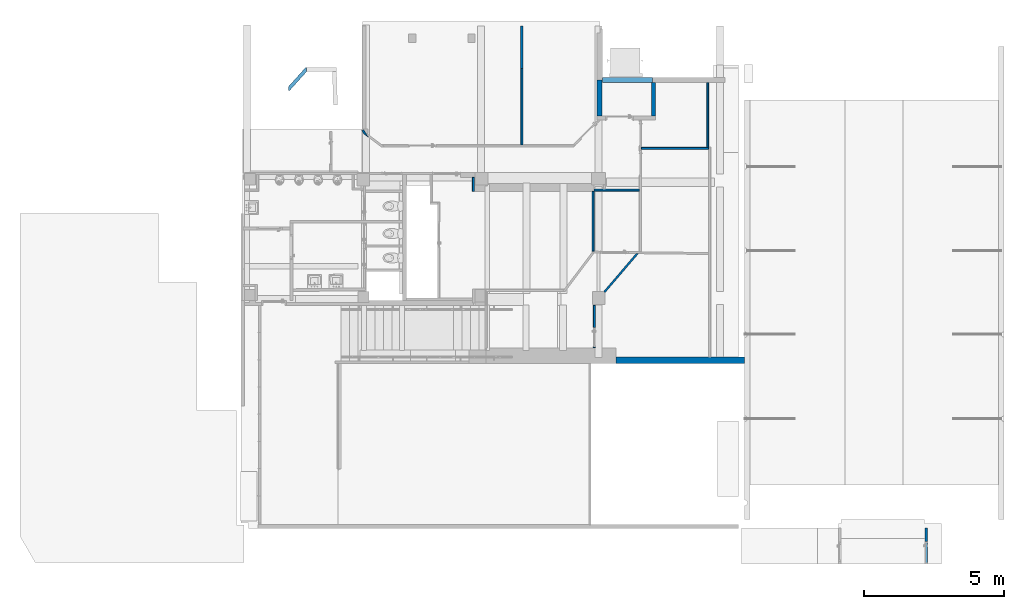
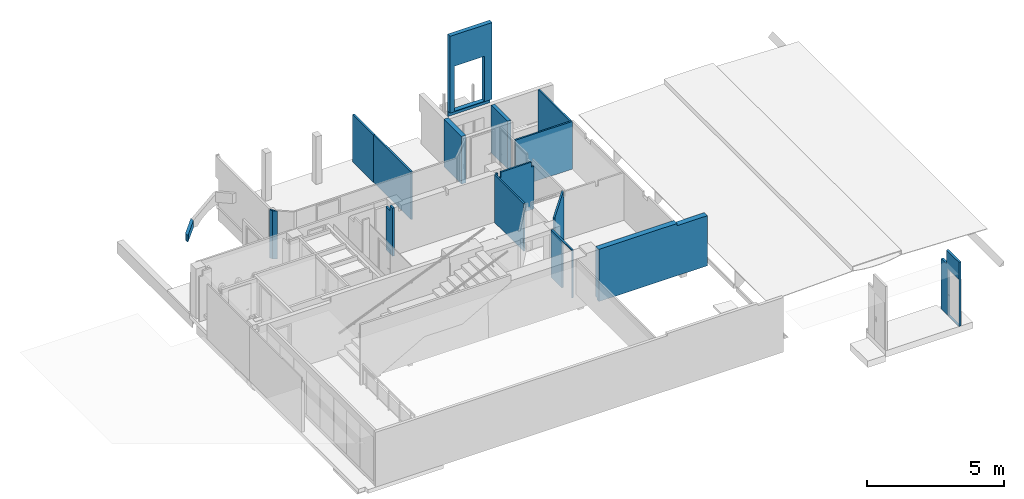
# One storey, part 9 of 32: 15 walls, 1 stair, 3 openings.
"""IFC4 building model written with IfcOpenShell, lengths in metres."""

from ifc_helpers import new_model, entity, si_unit, converted_unit, derived_unit, direction, frame, origin, place, context, subcontext, project, spatial, indexed_curve, outline, extrude, polygons, material, layer, layer_set, type_object, element, save


model = new_model("IFC4")

# Units and contexts
model_context = context("Model", 3, precision=1e-05, world=origin(), true_north=direction((6.12303176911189e-17, 1.0)))
body_context = subcontext(model_context, "Body", "Model", "MODEL_VIEW")
ifc_project = project(units=[si_unit("LENGTHUNIT", "METRE"), si_unit("AREAUNIT", "SQUARE_METRE"), si_unit("VOLUMEUNIT", "CUBIC_METRE"), converted_unit("PLANEANGLEUNIT", "DEGREE", entity("IfcRatioMeasure", 0.0174532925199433), si_unit("PLANEANGLEUNIT", "RADIAN"), dimensions=[0, 0, 0, 0, 0, 0, 0]), si_unit("MASSUNIT", "GRAM", prefix="KILO"), derived_unit("MASSDENSITYUNIT", [(si_unit("MASSUNIT", "GRAM", prefix="KILO"), 1), (si_unit("LENGTHUNIT", "METRE"), -3)]), derived_unit("MOMENTOFINERTIAUNIT", [(si_unit("LENGTHUNIT", "METRE"), 4)]), si_unit("TIMEUNIT", "SECOND"), si_unit("FREQUENCYUNIT", "HERTZ"), si_unit("THERMODYNAMICTEMPERATUREUNIT", "DEGREE_CELSIUS"), derived_unit("THERMALTRANSMITTANCEUNIT", [(si_unit("MASSUNIT", "GRAM", prefix="KILO"), 1), (si_unit("THERMODYNAMICTEMPERATUREUNIT", "KELVIN"), -1), (si_unit("TIMEUNIT", "SECOND"), -3)]), derived_unit("VOLUMETRICFLOWRATEUNIT", [(si_unit("LENGTHUNIT", "METRE"), 3), (si_unit("TIMEUNIT", "SECOND"), -1)]), si_unit("ELECTRICCURRENTUNIT", "AMPERE"), si_unit("ELECTRICVOLTAGEUNIT", "VOLT"), si_unit("POWERUNIT", "WATT"), si_unit("FORCEUNIT", "NEWTON", prefix="KILO"), si_unit("ILLUMINANCEUNIT", "LUX"), si_unit("LUMINOUSFLUXUNIT", "LUMEN"), si_unit("LUMINOUSINTENSITYUNIT", "CANDELA"), derived_unit("USERDEFINED", [(si_unit("MASSUNIT", "GRAM", prefix="KILO"), -1), (si_unit("LENGTHUNIT", "METRE"), -2), (si_unit("TIMEUNIT", "SECOND"), 3), (si_unit("LUMINOUSFLUXUNIT", "LUMEN"), 1)]), derived_unit("LINEARVELOCITYUNIT", [(si_unit("LENGTHUNIT", "METRE"), 1), (si_unit("TIMEUNIT", "SECOND"), -1)]), si_unit("PRESSUREUNIT", "PASCAL"), derived_unit("USERDEFINED", [(si_unit("LENGTHUNIT", "METRE"), -2), (si_unit("MASSUNIT", "GRAM", prefix="KILO"), 1), (si_unit("TIMEUNIT", "SECOND"), -2)]), derived_unit("LINEARFORCEUNIT", [(si_unit("MASSUNIT", "GRAM", prefix="KILO"), 1), (si_unit("LENGTHUNIT", "METRE"), 1), (si_unit("TIMEUNIT", "SECOND"), -2), (si_unit("LENGTHUNIT", "METRE"), -1)]), derived_unit("PLANARFORCEUNIT", [(si_unit("MASSUNIT", "GRAM", prefix="KILO"), 1), (si_unit("LENGTHUNIT", "METRE"), 1), (si_unit("TIMEUNIT", "SECOND"), -2), (si_unit("LENGTHUNIT", "METRE"), -2)])], contexts=[model_context])

# Site, building, storey
site_placement = place(None, origin())
site = spatial("IfcSite", under=ifc_project, at=site_placement, Name="Default", CompositionType="ELEMENT")
building_placement = place(site_placement, origin())
building = spatial("IfcBuilding", under=site, at=building_placement, Name="HOTEL CONSULAIRE BOULOGNE SUR MER", CompositionType="ELEMENT")
storey_placement = place(building_placement, frame((0.0, 0.0, -2.70343668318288)))
storey = spatial("IfcBuildingStorey", under=building, at=storey_placement, Name="SS1", CompositionType="ELEMENT", Elevation=-2.70343668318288)

# Wall, opening
ifc_material_1 = material(Name="Mur par défaut", Category="Divers")
ifc_layer_1 = layer(ifc_material_1, 0.07, Name="Mur par défaut", Category="Divers")
ifc_layer_set_1 = layer_set([ifc_layer_1], Name="Mur de base:Générique - Int. 70 mm")
wall_type_1 = type_object("IfcWallType", Name="Mur de base:Générique - Int. 70 mm", PredefinedType="NOTDEFINED", material=ifc_layer_set_1)
wall_1_placement = place(storey_placement, frame((-1.2480131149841, -13.8483331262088, 0.294), z_axis=(0.0, 0.0, 1.0), x_axis=(0.529919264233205, -0.848048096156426, 0.0)))
wall_1 = element("IfcWall", 1, at=wall_1_placement, inside=storey, type_object=wall_type_1, material=ifc_layer_set_1, Name="Mur de base:Générique - Int. 70 mm", ObjectType="Mur de base:Générique - Int. 70 mm", PredefinedType="NOTDEFINED", context=body_context, shape_type="Tessellation", body=[
    polygons([(0.0, -0.0350000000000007, 0.0), (0.121936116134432, -0.0350000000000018, 0.0), (0.121936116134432, -0.0350000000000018, 2.13943668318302), (0.0, -0.0350000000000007, 2.13943668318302), (0.0, 0.0349999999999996, 0.0), (0.0, 0.0349999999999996, 2.13943668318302), (0.165676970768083, 0.0349999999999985, 2.13943668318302), (0.30311244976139, 0.0349999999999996, 2.13943668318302), (0.30311244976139, 0.0349999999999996, 0.0), (0.165676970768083, 0.0349999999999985, 0.0)], [[[4, 1, 2, 3]], [[7, 8, 9, 10, 5, 6]], [[2, 1, 5, 10, 9]], [[4, 3, 8, 7, 6]], [[1, 4, 6, 5]], [[3, 2, 9, 8]]], closed=True),
])
opening_1_placement = place(wall_1_placement, frame((-0.450639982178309, -0.815528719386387, 0.0199904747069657)))
element("IfcOpeningElement", 2, at=opening_1_placement, cuts=wall_1, Name="Mur de base:Générique - Int. 70 mm", ObjectType="Opening", PredefinedType="OPENING", context=body_context, shape_type="SweptSolid", body=[
    extrude(outline(indexed_curve([(-0.0500000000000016, -0.992500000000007), (0.0499999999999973, -0.992500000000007), (0.0499999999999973, 0.992500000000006), (-0.0500000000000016, 0.992500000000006), (-0.0500000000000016, -0.992500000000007)], self_intersect=False)), frame((-0.0424024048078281, 0.0264959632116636, 0.992500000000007), z_axis=(0.529919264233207, 0.848048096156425, 0.0), x_axis=(-0.848048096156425, 0.529919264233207, 0.0)), (0.0, 0.0, 1.0), 0.899999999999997),
])

# Walls
wall_2_placement = place(storey_placement, frame((4.42317677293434, -14.3718227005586, 0.313990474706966), z_axis=(0.0, 0.0, 1.0), x_axis=(0.0, 1.0, 0.0)))
element("IfcWall", 3, at=wall_2_placement, inside=storey, type_object=wall_type_1, material=ifc_layer_set_1, Name="Mur de base:Générique - Int. 70 mm", ObjectType="Mur de base:Générique - Int. 70 mm", PredefinedType="NOTDEFINED", context=body_context, shape_type="Tessellation", body=[
    polygons([(2.72749853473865, -0.0349999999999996, 2.11944620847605), (0.0, -0.0349999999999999, 2.11944620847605), (0.0, -0.0349999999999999, 0.0), (2.72749853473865, -0.0349999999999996, 0.0), (0.0, 0.0349999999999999, 2.11944620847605), (2.72749853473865, 0.0350000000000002, 2.11944620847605), (2.72749853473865, 0.0350000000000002, 0.0), (0.0, 0.0349999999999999, 0.0)], [[[2, 3, 4, 1]], [[6, 7, 8, 5]], [[1, 4, 7, 6]], [[2, 1, 6, 5]], [[8, 3, 2, 5]], [[4, 3, 8, 7]]], closed=True),
])
wall_3_placement = place(storey_placement, frame((11.0543863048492, -14.4542117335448, 0.313990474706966), z_axis=(0.0, 0.0, 1.0), x_axis=(0.0, 1.0, 0.0)))
element("IfcWall", 4, at=wall_3_placement, inside=storey, type_object=wall_type_1, material=ifc_layer_set_1, Name="Mur de base:Générique - Int. 70 mm", ObjectType="Mur de base:Générique - Int. 70 mm", PredefinedType="NOTDEFINED", context=body_context, shape_type="Tessellation", body=[
    polygons([(2.30342042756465, -0.0349999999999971, 2.11944620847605), (0.0, -0.0349999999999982, 2.11944620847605), (0.0, -0.0349999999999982, 0.0), (2.30342042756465, -0.0349999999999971, 0.0), (0.0, 0.035000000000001, 2.11944620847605), (2.30342042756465, 0.0350000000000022, 2.11944620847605), (2.30342042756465, 0.0350000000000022, 0.0), (0.0, 0.035000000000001, 0.0), (0.0, -0.0278405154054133, 2.11944620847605), (0.0, -0.0278405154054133, 0.0)], [[[2, 3, 4, 1]], [[6, 7, 8, 5]], [[2, 1, 6, 5, 9]], [[4, 7, 6, 1]], [[10, 3, 2, 9, 5, 8]], [[7, 4, 3, 10, 8]]], closed=True),
])
wall_4_placement = place(storey_placement, frame((8.68460395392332, -14.4892117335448, 0.313990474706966)))
element("IfcWall", 5, at=wall_4_placement, inside=storey, type_object=wall_type_1, material=ifc_layer_set_1, Name="Mur de base:Générique - Int. 70 mm", ObjectType="Mur de base:Générique - Int. 70 mm", PredefinedType="NOTDEFINED", context=body_context, shape_type="Tessellation", body=[
    polygons([(2.39762286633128, -0.0349999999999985, 2.11944620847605), (1.17556196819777e-15, -0.0349999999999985, 2.11944620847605), (9.26948388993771e-17, -0.0349999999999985, 0.0), (2.39762286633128, -0.0349999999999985, 0.0), (9.1938814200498e-16, 0.0350000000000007, 2.11944620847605), (2.33478235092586, 0.0350000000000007, 2.11944620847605), (2.39762286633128, 0.0350000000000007, 2.11944620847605), (2.39762286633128, 0.0350000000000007, 0.0), (2.33478235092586, 0.0350000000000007, 0.0), (9.1938814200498e-16, 0.0350000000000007, 0.0)], [[[2, 3, 4, 1]], [[7, 8, 9, 10, 5, 6]], [[2, 1, 7, 6, 5]], [[10, 3, 2, 5]], [[4, 8, 7, 1]], [[9, 8, 4, 3, 10]]], closed=True),
])
wall_5_placement = place(storey_placement, frame((8.61460395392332, -15.9840841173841, 0.313990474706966), z_axis=(0.0, 0.0, 1.0), x_axis=(-1.0, 0.0, 0.0)))
element("IfcWall", 6, at=wall_5_placement, inside=storey, type_object=wall_type_1, material=ifc_layer_set_1, Name="Mur de base:Générique - Int. 70 mm", ObjectType="Mur de base:Générique - Int. 70 mm", PredefinedType="NOTDEFINED", context=body_context, shape_type="Tessellation", body=[
    polygons([(1.3954667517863, -0.0349999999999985, 2.11944620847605), (1.3954667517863, 0.0350000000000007, 2.11944620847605), (0.107582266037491, 0.0350000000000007, 2.11944620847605), (0.107582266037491, -0.0349999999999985, 2.11944620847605), (1.21102899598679, -0.0349999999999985, 2.11944620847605), (1.28102899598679, -0.0349999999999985, 2.11944620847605), (1.3954667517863, -0.0349999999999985, 1.89944620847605), (0.107582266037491, -0.0349999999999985, 1.89944620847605), (4.46354281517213e-16, -0.0349999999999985, 1.89944620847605), (4.46354281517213e-16, -0.0349999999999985, 0.0), (1.612, -0.0349999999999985, 0.0), (1.612, -0.0349999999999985, 2.11944620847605), (1.5154667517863, -0.0349999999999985, 2.11944620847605), (1.5154667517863, -0.0349999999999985, 1.89944620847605), (1.3954667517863, 0.0350000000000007, 1.89944620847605), (1.5154667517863, 0.0350000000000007, 1.89944620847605), (1.5154667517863, 0.0350000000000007, 2.11944620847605), (1.612, 0.0350000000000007, 2.11944620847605), (1.612, 0.0350000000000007, 0.0), (2.58206602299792e-16, 0.0350000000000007, 0.0), (2.58206602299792e-16, 0.0350000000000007, 1.89944620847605), (0.107582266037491, 0.0350000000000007, 1.89944620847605)], [[[6, 1, 2, 3, 4, 5]], [[13, 12, 18, 17]], [[16, 15, 7, 14]], [[22, 21, 9, 8]], [[10, 11, 12, 13, 14, 7, 1, 6, 5, 4, 8, 9]], [[19, 20, 21, 22, 3, 2, 15, 16, 17, 18]], [[20, 10, 9, 21]], [[17, 16, 14, 13]], [[22, 8, 4, 3]], [[11, 19, 18, 12]], [[2, 1, 7, 15]], [[10, 20, 19, 11]]], closed=True),
])
wall_6_placement = place(storey_placement, frame((6.96760395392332, -16.0290975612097, 0.313990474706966), z_axis=(0.0, 0.0, 1.0), x_axis=(0.0, -1.0, 0.0)))
element("IfcWall", 7, at=wall_6_placement, inside=storey, type_object=wall_type_1, material=ifc_layer_set_1, Name="Mur de base:Générique - Int. 70 mm", ObjectType="Mur de base:Générique - Int. 70 mm", PredefinedType="NOTDEFINED", context=body_context, shape_type="Tessellation", body=[
    polygons([(2.13046359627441, -0.0350000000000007, 2.11944620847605), (0.0, -0.0350000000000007, 2.11944620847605), (0.0, -0.0350000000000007, 0.0), (2.13046359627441, -0.0350000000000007, 0.0), (0.0, 0.0349999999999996, 2.11944620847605), (2.13128684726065, 0.0349999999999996, 2.11944620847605), (2.13128684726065, 0.0349999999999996, 0.0), (0.0, 0.0349999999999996, 0.0)], [[[2, 3, 4, 1]], [[6, 7, 8, 5]], [[2, 1, 6, 5]], [[4, 7, 6, 1]], [[8, 3, 2, 5]], [[8, 7, 4, 3]]], closed=True),
])
wall_7_placement = place(storey_placement, frame((8.55635638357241, -18.2262487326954, 0.313990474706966), z_axis=(0.0, 0.0, 1.0), x_axis=(-0.649337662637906, -0.7605002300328, 0.0)))
element("IfcWall", 8, at=wall_7_placement, inside=storey, type_object=wall_type_1, material=ifc_layer_set_1, Name="Mur de base:Générique - Int. 70 mm", ObjectType="Mur de base:Générique - Int. 70 mm", PredefinedType="NOTDEFINED", context=body_context, shape_type="Tessellation", body=[
    polygons([(1.83223585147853, -0.0350000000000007, 2.21944620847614), (0.0583588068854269, -0.0349999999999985, 2.21944620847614), (0.0583588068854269, -0.0349999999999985, 2.11944620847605), (0.058358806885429, -0.0349999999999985, 0.0), (1.83223585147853, -0.0349999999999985, 0.0), (-2.16573425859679e-15, 0.0350000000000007, 1.89944620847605), (0.116968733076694, 0.0350000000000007, 1.89944620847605), (0.116968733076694, 0.0350000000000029, 2.21944620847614), (1.83223585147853, 0.0350000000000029, 2.21944620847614), (1.83223585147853, 0.0350000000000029, 0.0), (-2.16573425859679e-15, 0.0350000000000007, 0.0), (0.0486393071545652, -0.0233416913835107, 2.21944620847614), (0.0486393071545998, -0.0233416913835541, 2.11944620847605), (0.0486393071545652, -0.0233416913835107, 1.89944620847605)], [[[3, 4, 5, 1, 2]], [[9, 10, 11, 6, 7, 8]], [[1, 5, 10, 9]], [[2, 1, 9, 8, 12]], [[7, 6, 14]], [[13, 14, 6, 11, 4, 3, 2, 12]], [[8, 7, 14, 13, 12]], [[4, 11, 10, 5]]], closed=True),
])
wall_8_placement = place(storey_placement, frame((2.69360395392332, -16.0290975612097, 0.294), z_axis=(0.0, 0.0, 1.0), x_axis=(0.0, 1.0, 0.0)))
element("IfcWall", 9, at=wall_8_placement, inside=storey, type_object=wall_type_1, material=ifc_layer_set_1, Name="Mur de base:Générique - Int. 70 mm", ObjectType="Mur de base:Générique - Int. 70 mm", PredefinedType="NOTDEFINED", context=body_context, shape_type="Tessellation", body=[
    polygons([(0.0, -0.0349999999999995, 2.70716782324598e-16), (0.279999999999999, -0.0349999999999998, 2.70716782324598e-16), (0.503403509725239, -0.0349999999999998, 2.70716782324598e-16), (0.503403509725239, -0.0349999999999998, 1.91943668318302), (0.279999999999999, -0.0349999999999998, 1.91943668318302), (0.203403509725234, -0.0349999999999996, 1.91943668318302), (0.203403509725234, -0.0349999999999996, 2.13943668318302), (0.0, -0.0349999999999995, 2.13943668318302), (0.503403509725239, 0.035, 2.70716782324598e-16), (0.0, 0.0350000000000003, 2.70716782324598e-16), (0.0, 0.0350000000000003, 2.13943668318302), (0.203403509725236, 0.0350000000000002, 2.13943668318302), (0.203403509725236, 0.0350000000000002, 1.91943668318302), (0.503403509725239, 0.035, 1.91943668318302)], [[[1, 2, 3, 4, 5, 6, 7, 8]], [[9, 10, 11, 12, 13, 14]], [[2, 1, 10, 9, 3]], [[8, 7, 12, 11]], [[14, 13, 6, 5, 4]], [[11, 10, 1, 8]], [[4, 3, 9, 14]], [[13, 12, 7, 6]]], closed=True),
])

# Wall, opening
ifc_layer_2 = layer(ifc_material_1, 0.07, Name="Mur par défaut", Category="Divers")
ifc_layer_set_2 = layer_set([ifc_layer_2], Name="Mur de base:Int. Plâtre 70 mm")
wall_type_2 = type_object("IfcWallType", Name="Mur de base:Int. Plâtre 70 mm", PredefinedType="NOTDEFINED", material=ifc_layer_set_2)
wall_9_placement = place(storey_placement, frame((7.01192687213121, -20.0949143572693, 0.313990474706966), z_axis=(0.0, 0.0, 1.0), x_axis=(0.0, -1.0, 0.0)))
wall_9 = element("IfcWall", 10, at=wall_9_placement, inside=storey, type_object=wall_type_2, material=ifc_layer_set_2, Name="Mur de base:Int. Plâtre 70 mm", ObjectType="Mur de base:Int. Plâtre 70 mm", PredefinedType="NOTDEFINED", context=body_context, shape_type="Tessellation", body=[
    polygons([(0.778463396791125, -0.0350000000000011, 0.0), (0.0, -0.0350000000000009, 0.0), (0.0, 0.0349999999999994, 0.0), (0.778463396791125, 0.0349999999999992, 0.0), (1.51546339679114, -0.0350000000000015, 2.11944620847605), (0.0, -0.0350000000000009, 2.11944620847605), (0.778463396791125, -0.0350000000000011, 2.07500952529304), (1.47846339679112, -0.0350000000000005, 2.07500952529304), (1.47846339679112, -0.0350000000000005, 0.0), (1.51546339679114, -0.0350000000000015, 0.0), (0.0, 0.0349999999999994, 2.11944620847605), (1.51546339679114, 0.0349999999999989, 2.11944620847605), (1.51546339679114, 0.0349999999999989, 0.0), (1.47846339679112, 0.0349999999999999, 9.52529303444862e-06), (1.47846339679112, 0.0349999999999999, 2.07500952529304), (0.778463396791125, 0.0349999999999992, 2.07500952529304), (0.0, 0.0349999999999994, 1.9309799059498)], [[[2, 3, 4, 1]], [[15, 8, 7, 16]], [[2, 1, 7, 8, 9, 10, 5, 6]], [[13, 14, 15, 16, 4, 3, 17, 11, 12]], [[6, 5, 12, 11]], [[17, 3, 2, 6, 11]], [[15, 14, 9, 8]], [[10, 13, 12, 5]], [[4, 16, 7, 1]], [[14, 13, 10]], [[10, 9, 14]]], closed=True),
])
opening_2_placement = place(wall_9_placement, frame((1.47846339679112, 0.0349999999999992, 9.52529303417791e-06)))
element("IfcOpeningElement", 11, at=opening_2_placement, cuts=wall_9, Name="Int. Simple:PP (0.63m x 2.04m):1", ObjectType="Opening", PredefinedType="OPENING", context=body_context, shape_type="SweptSolid", body=[
    extrude(outline(indexed_curve([(0.0, 2.70716782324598e-15), (2.07500000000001, 2.70716782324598e-15), (2.07500000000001, 0.699999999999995), (0.0, 0.699999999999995), (0.0, 2.70716782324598e-15)], self_intersect=False)), frame((0.0, 0.0, 0.0), z_axis=(0.0, -1.0, 0.0), x_axis=(0.0, 0.0, 1.0)), (0.0, 0.0, 1.0), 0.07),
])

# Walls
ifc_layer_3 = layer(ifc_material_1, 0.18, Name="Mur par défaut", Category="Divers")
ifc_layer_set_3 = layer_set([ifc_layer_3], Name="Mur de base:Générique - Int.180")
wall_type_3 = type_object("IfcWallType", Name="Mur de base:Générique - Int.180", PredefinedType="NOTDEFINED", material=ifc_layer_set_3)
wall_10_placement = place(storey_placement, frame((7.1989802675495, -13.3366674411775, 0.313990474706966), z_axis=(0.0, 0.0, 1.0), x_axis=(0.0, 1.0, 0.0)))
element("IfcWall", 12, at=wall_10_placement, inside=storey, type_object=wall_type_3, material=ifc_layer_set_3, Name="Mur de base:Générique - Int.180", ObjectType="Mur de base:Générique - Int.180", PredefinedType="NOTDEFINED", context=body_context, shape_type="Tessellation", body=[
    polygons([(1.27587613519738, -0.09, 2.11944620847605), (1.18587613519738, -0.0900000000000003, 2.11944620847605), (0.0, -0.0900000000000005, 2.11944620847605), (0.0, -0.0900000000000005, 0.0), (1.18587613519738, -0.0900000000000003, 0.0), (1.27587613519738, -0.09, 0.0), (-2.16573425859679e-15, 0.0899999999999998, 2.11944620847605), (1.27587613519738, 0.0900000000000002, 2.11944620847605), (1.27587613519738, 0.0900000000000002, 0.0), (-2.16573425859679e-15, 0.0899999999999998, 0.0), (1.27587613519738, -0.0199999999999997, 0.0)], [[[3, 4, 5, 6, 1, 2]], [[8, 9, 10, 7]], [[1, 6, 11, 9, 8]], [[2, 1, 8, 7, 3]], [[10, 4, 3, 7]], [[5, 4, 10, 9, 11, 6]]], closed=True),
])
wall_11_placement = place(storey_placement, frame((9.08793913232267, -12.0607913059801, 2.43343668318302), z_axis=(0.0, 0.0, 1.0), x_axis=(-1.0, 0.0, 0.0)))
element("IfcWall", 13, at=wall_11_placement, inside=storey, type_object=wall_type_3, material=ifc_layer_set_3, Name="Mur de base:Générique - Int.180", ObjectType="Mur de base:Générique - Int.180", PredefinedType="NOTDEFINED", context=body_context, shape_type="Tessellation", body=[
    polygons([(1.30514246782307e-17, -0.0900000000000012, 2.70716782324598e-16), (1.77895886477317, -0.0900000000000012, 2.70716782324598e-16), (1.77895886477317, -0.0900000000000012, 0.25), (1.77895886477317, -0.0900000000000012, 3.66112697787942), (1.30514246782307e-17, -0.0900000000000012, 3.66112697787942), (1.5869588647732, -0.0900000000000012, 0.269999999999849), (0.331952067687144, -0.089999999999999, 0.269999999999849), (0.331952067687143, -0.089999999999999, 2.26999999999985), (1.58695886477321, -0.0900000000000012, 2.26999999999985), (0.00173218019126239, 0.089999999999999, 3.66112697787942), (1.77895886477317, 0.089999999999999, 3.66112697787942), (1.77895886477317, 0.089999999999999, 0.25), (0.00173218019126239, 0.089999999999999, 0.25), (0.331952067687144, 0.0900000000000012, 0.269999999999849), (1.58695886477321, 0.089999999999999, 0.269999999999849), (1.58695886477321, 0.089999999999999, 2.26999999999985), (0.331952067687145, 0.0900000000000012, 2.26999999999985), (0.00017709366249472, -0.0715972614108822, 2.70716782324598e-16), (1.77895886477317, -0.0715972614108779, 2.70716782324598e-16), (1.77895886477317, -0.0715972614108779, 0.25), (0.000177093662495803, -0.0715972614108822, 0.25)], [[[1, 2, 3, 4, 5], [8, 9, 6, 7]], [[12, 13, 10, 11], [16, 17, 14, 15]], [[21, 20, 19, 18]], [[2, 1, 18, 19]], [[9, 8, 17, 16]], [[20, 21, 13, 12]], [[5, 4, 11, 10]], [[7, 6, 15, 14]], [[6, 9, 16, 15]], [[8, 7, 14, 17]], [[20, 12, 11, 4, 3, 2, 19]], [[1, 5, 10, 13, 21, 18]]], closed=True),
])

# Wall, opening
ifc_layer_4 = layer(ifc_material_1, 0.09, Name="Mur par défaut", Category="Divers")
ifc_layer_set_4 = layer_set([ifc_layer_4], Name="Mur de base:Générique - Int. 90")
wall_type_4 = type_object("IfcWallType", Name="Mur de base:Générique - Int. 90", PredefinedType="NOTDEFINED", material=ifc_layer_set_4)
wall_12_placement = place(storey_placement, frame((18.848351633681, -29.3180671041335, -0.418774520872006), z_axis=(0.0, 0.0, 1.0), x_axis=(0.0, 1.0, 0.0)))
wall_12 = element("IfcWall", 14, at=wall_12_placement, inside=storey, type_object=wall_type_4, material=ifc_layer_set_4, Name="Mur de base:Générique - Int. 90", ObjectType="Mur de base:Générique - Int. 90", PredefinedType="NOTDEFINED", context=body_context, shape_type="Tessellation", body=[
    polygons([(0.0, -0.0449999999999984, 0.0), (1.29424399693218, -0.0449999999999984, 0.0), (1.29424399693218, -0.0449999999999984, 2.24221120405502), (0.914243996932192, -0.0449999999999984, 2.24221120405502), (0.914243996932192, -0.0449999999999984, 2.85221120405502), (0.0, -0.0449999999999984, 2.85221120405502), (0.00100000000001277, -0.0449999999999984, 0.000267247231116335), (0.00100000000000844, -0.0449999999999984, 2.07526724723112), (0.801000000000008, -0.0449999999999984, 2.07526724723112), (0.801000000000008, -0.0449999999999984, 0.000267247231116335), (1.29424399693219, 0.0450000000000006, 0.0), (0.0, 0.0450000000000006, 0.0), (0.0, 0.0450000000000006, 2.85221120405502), (0.914243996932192, 0.0450000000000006, 2.85221120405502), (0.914243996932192, 0.0450000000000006, 2.24221120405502), (1.29424399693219, 0.0450000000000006, 2.24221120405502), (0.00100000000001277, 0.0450000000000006, 2.07526724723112), (0.00100000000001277, 0.0450000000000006, 0.000267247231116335), (0.801000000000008, 0.0450000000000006, 0.000267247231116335), (0.801000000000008, 0.0450000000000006, 2.07526724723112)], [[[1, 2, 3, 4, 5, 6], [8, 9, 10, 7]], [[11, 12, 13, 14, 15, 16], [20, 17, 18, 19]], [[2, 1, 12, 11]], [[8, 17, 20, 9]], [[6, 5, 14, 13]], [[10, 19, 18, 7]], [[15, 4, 3, 16]], [[2, 11, 16, 3]], [[7, 18, 17, 8]], [[14, 5, 4, 15]], [[12, 1, 6, 13]], [[9, 20, 19, 10]]], closed=True),
])
opening_3_placement = place(wall_12_placement, frame((0.00100000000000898, -0.045, 0.000267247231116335)))
element("IfcOpeningElement", 15, at=opening_3_placement, cuts=wall_12, Name="Int. Simple:PP (0.73m x 2.04m):1", ObjectType="Opening", PredefinedType="OPENING", context=body_context, shape_type="SweptSolid", body=[
    extrude(outline(indexed_curve([(0.0, 3.79003495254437e-15), (2.075, 3.79003495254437e-15), (2.075, 0.799999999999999), (0.0, 0.799999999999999), (0.0, 3.79003495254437e-15)], self_intersect=False)), frame((0.0, 0.0, 0.0), z_axis=(0.0, 1.0, 0.0), x_axis=(0.0, 0.0, 1.0)), (0.0, 0.0, 1.0), 0.09),
])

# Walls
ifc_layer_5 = layer(ifc_material_1, 0.15, Name="Mur par défaut", Category="Divers")
ifc_layer_set_5 = layer_set([ifc_layer_5], Name="Mur de base:Générique - Int. 150 mm")
wall_type_5 = type_object("IfcWallType", Name="Mur de base:Générique - Int. 150 mm", PredefinedType="NOTDEFINED", material=ifc_layer_set_5)
wall_13_placement = place(storey_placement, frame((9.11860395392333, -13.3366674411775, 0.313990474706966), z_axis=(0.0, 0.0, 1.0), x_axis=(0.0, 1.0, 0.0)))
element("IfcWall", 16, at=wall_13_placement, inside=storey, type_object=wall_type_5, material=ifc_layer_set_5, Name="Mur de base:Générique - Int. 150 mm", ObjectType="Mur de base:Générique - Int. 150 mm", PredefinedType="NOTDEFINED", context=body_context, shape_type="Tessellation", body=[
    polygons([(1.18587613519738, -0.0749999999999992, 2.11944620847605), (0.0, -0.0749999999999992, 2.11944620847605), (0.0, -0.0749999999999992, 0.0), (1.18587613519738, -0.0749999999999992, 0.0), (0.0, 0.0750000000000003, 2.11944620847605), (1.18587613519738, 0.0750000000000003, 2.11944620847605), (1.18587613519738, 0.0750000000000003, 0.0), (0.0, 0.0750000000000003, 0.0)], [[[2, 3, 4, 1]], [[6, 7, 8, 5]], [[2, 1, 6, 5]], [[8, 3, 2, 5]], [[4, 7, 6, 1]], [[7, 4, 3, 8]]], closed=True),
])
ifc_layer_6 = layer(ifc_material_1, 0.08, Name="Mur par défaut", Category="Divers")
ifc_layer_set_6 = layer_set([ifc_layer_6], Name="Mur de base:Générique - Int. 80")
wall_type_6 = type_object("IfcWallType", Name="Mur de base:Générique - Int. 80", PredefinedType="NOTDEFINED", material=ifc_layer_set_6)
wall_14_placement = place(storey_placement, frame((4.41817677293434, -11.64432416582, 0.313990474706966), z_axis=(0.0, 0.0, 1.0), x_axis=(0.0, 1.0, 0.0)))
element("IfcWall", 17, at=wall_14_placement, inside=storey, type_object=wall_type_6, material=ifc_layer_set_6, Name="Mur de base:Générique - Int. 80", ObjectType="Mur de base:Générique - Int. 80", PredefinedType="NOTDEFINED", context=body_context, shape_type="Tessellation", body=[
    polygons([(1.51, -0.0400000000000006, 2.11944620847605), (0.0, -0.0400000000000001, 2.11944620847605), (0.0, -0.0400000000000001, 0.0), (1.26, -0.0400000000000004, 0.0), (1.51, -0.0400000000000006, 0.0), (1.51, -0.0400000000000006, 1.37924642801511), (0.0, 0.0400000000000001, 2.11944620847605), (1.51, 0.0399999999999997, 2.11944620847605), (1.51, 0.0399999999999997, 0.0), (0.0, 0.0400000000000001, 0.0), (0.0, 0.0300000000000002, 2.11944620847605), (0.0, 0.0300000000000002, 2.70716782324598e-16)], [[[6, 1, 2, 3, 4, 5]], [[8, 9, 10, 7]], [[2, 1, 8, 7, 11]], [[3, 2, 11, 7, 10, 12]], [[6, 5, 9, 8, 1]], [[4, 3, 12, 10, 9, 5]]], closed=True),
])
ifc_layer_7 = layer(ifc_material_1, 0.23, Name="Mur par défaut", Category="Divers")
ifc_layer_set_7 = layer_set([ifc_layer_7], Name="Mur de base:Générique - Int.230")
wall_type_7 = type_object("IfcWallType", Name="Mur de base:Générique - Int.230", PredefinedType="NOTDEFINED", material=ifc_layer_set_7)
wall_15_placement = place(storey_placement, frame((7.78284106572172, -22.0542190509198, 0.2085)))
element("IfcWall", 18, at=wall_15_placement, inside=storey, type_object=wall_type_7, material=ifc_layer_set_7, Name="Mur de base:Générique - Int.230", ObjectType="Mur de base:Générique - Int.230", PredefinedType="NOTDEFINED", context=body_context, shape_type="Tessellation", body=[
    polygons([(-9.07901798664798e-16, -0.115, 0.0), (4.37638575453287, -0.115, 0.0), (4.57638575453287, -0.114999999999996, 0.0), (4.57638575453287, -0.114999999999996, 2.22493668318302), (4.37638575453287, -0.115, 2.22493668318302), (3.61938575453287, -0.114999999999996, 2.22493668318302), (3.51938575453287, -0.114999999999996, 2.22493668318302), (3.29938575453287, -0.114999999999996, 2.22493668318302), (3.29938575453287, -0.114999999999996, 2.3249366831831), (-9.07901798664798e-16, -0.115, 2.3249366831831), (-6.02028361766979e-16, 0.115, 0.105490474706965), (-6.02028361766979e-16, 0.115, 2.3249366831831), (3.29938575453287, 0.115000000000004, 2.3249366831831), (3.29938575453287, 0.115000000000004, 2.22493668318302), (3.36938575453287, 0.115000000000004, 2.22493668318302), (3.99638575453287, 0.115, 2.22493668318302), (4.57638575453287, 0.115000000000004, 2.22493668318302), (4.57638575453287, 0.115000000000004, 0.0), (4.37638575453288, 0.115, 0.0), (4.37638575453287, 0.115, 0.105490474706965), (3.99638575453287, 0.115, 0.105490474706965), (-2.13531515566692e-16, 0.0, 0.0), (4.37638575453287, 0.0, 0.0), (4.57638575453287, 4.33146851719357e-15, 0.0), (-1.29639864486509e-15, 0.0, 0.105490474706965), (4.37638575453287, 0.0, 0.105490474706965)], [[[1, 2, 3, 4, 5, 6, 7, 8, 9, 10]], [[18, 19, 20, 21, 11, 12, 13, 14, 15, 16, 17]], [[25, 26, 23, 22]], [[1, 22, 23, 19, 18, 24, 3, 2]], [[21, 20, 26, 25, 11]], [[10, 9, 13, 12]], [[8, 7, 6, 5, 4, 17, 16, 15, 14]], [[1, 10, 12, 11, 25, 22]], [[26, 20, 19, 23]], [[4, 3, 24, 18, 17]], [[9, 8, 14, 13]]], closed=True),
])

# Stair
ifc_material_2 = material(Name="Finition Peinture - Blanc satiné", Category="Peinture")
stair_type = type_object("IfcStairType", Name="limon 4:limon 4", PredefinedType="NOTDEFINED")
stair_placement = place(storey_placement, frame((-3.90690105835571, -12.4341009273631, 1.04923690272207)))
element("IfcStair", 19, at=stair_placement, inside=storey, type_object=stair_type, material=ifc_material_2, Name="limon 4:limon 4", ObjectType="limon 4:limon 4", PredefinedType="NOTDEFINED", context=body_context, shape_type="SweptSolid", body=[
    extrude(outline(indexed_curve([(-0.508760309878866, -0.060222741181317), (0.425710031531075, -0.0602227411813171), (0.527520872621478, 0.0314481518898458), (0.498411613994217, 0.0637772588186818), (-0.414614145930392, 0.0637772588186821), (-0.528268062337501, -0.0385571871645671), (-0.508760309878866, -0.060222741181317)], self_intersect=False)), frame((0.329609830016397, 0.413067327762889, 0.0), z_axis=(0.0, 0.0, 1.0), x_axis=(-0.669130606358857, -0.743144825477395, 0.0)), (0.0, 0.0, 1.0), 0.314801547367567),
])

save(model, "model.ifc")
